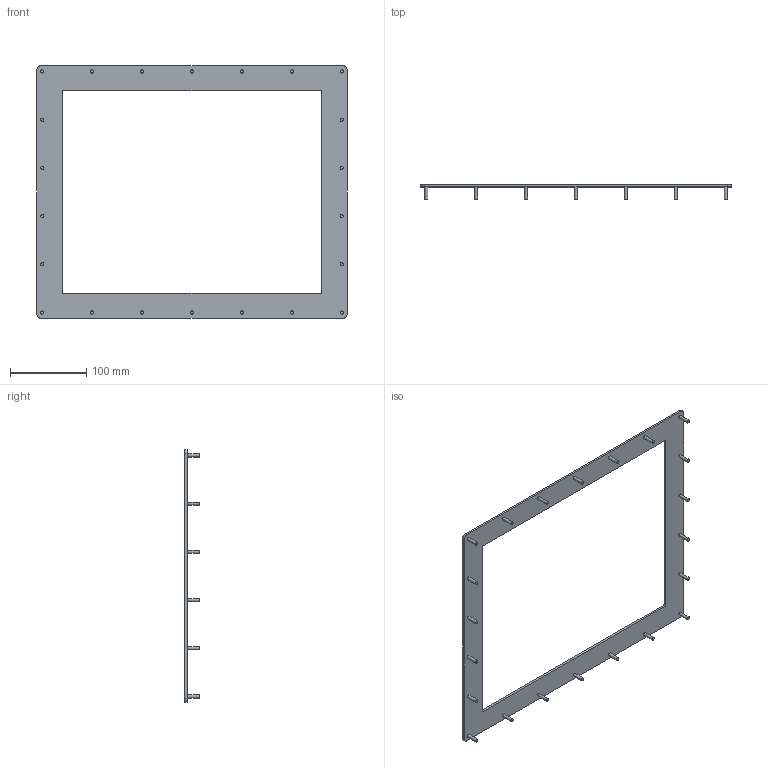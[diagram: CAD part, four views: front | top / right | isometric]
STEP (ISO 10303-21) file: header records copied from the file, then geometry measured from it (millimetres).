
FILE_DESCRIPTION(/* description */ ('Unknown'),/* implementation_level */ '2;1');
FILE_NAME(/* name */ 'G3AD1515',/* time_stamp */ '2021-04-21T09:35:37-04:00',/* author */ ('Unknown'),/* organization */ ('Unknown'),/* preprocessor_version */ 'ST-DEVELOPER v16.7',/* originating_system */ 'DEX',/* authorisation */ $);
FILE_SCHEMA (('AUTOMOTIVE_DESIGN {1 0 10303 214 3 1 1}'));
Length unit declared in the file: millimetre
Products named in the file (3): G3AD1515; G3AD1515-panel; FH-832-12
Assembly tree (23 placements, depth 2):
  G3AD1515
    G3AD1515-panel
    FH-832-12  x22
Bounding box: 406.4 x 19.05 x 330.2 mm (x, y, z)
Volume: 139211.8 mm3; surface area: 103045 mm2
Topology: 23 solids, 23 shells, 150 faces, 268 edges, 186 vertices
Faces by surface type: plane 76, cylinder 74
Full cylindrical faces by diameter (mm): 3.193 x22, 4.166 x22, 6.02 x22
Entity records: 1683 total; most frequent: DIRECTION 298, CARTESIAN_POINT 245, ORIENTED_EDGE 192, AXIS2_PLACEMENT_3D 133, EDGE_LOOP 116, FACE_BOUND 116, EDGE_CURVE 96, VERTEX_POINT 80
